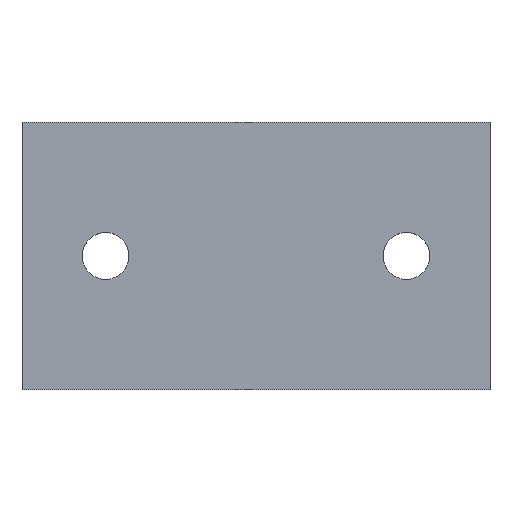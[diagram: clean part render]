
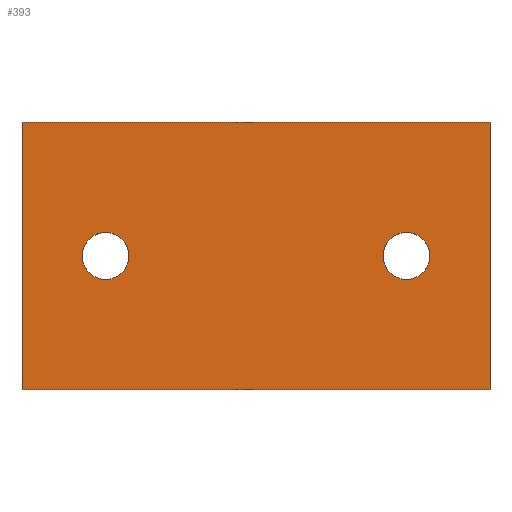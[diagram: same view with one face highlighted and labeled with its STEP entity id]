
A CAD part, top view. The second image highlights one B-rep face of the part: STEP entity #393.
In plain terms, the highlighted planar face has unit normal (0, 0, 1).
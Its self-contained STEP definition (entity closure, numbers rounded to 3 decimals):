
#186=CIRCLE('',#378,7.);
#187=CIRCLE('',#379,7.);
#202=ORIENTED_EDGE('',*,*,#258,.F.);
#203=ORIENTED_EDGE('',*,*,#268,.T.);
#204=ORIENTED_EDGE('',*,*,#265,.T.);
#205=ORIENTED_EDGE('',*,*,#269,.T.);
#206=ORIENTED_EDGE('',*,*,#270,.F.);
#207=ORIENTED_EDGE('',*,*,#271,.F.);
#222=VECTOR('',#304,1.);
#227=VECTOR('',#317,1.);
#230=VECTOR('',#322,1.);
#231=VECTOR('',#323,1.);
#234=LINE('',#343,#222);
#239=LINE('',#358,#227);
#242=LINE('',#362,#230);
#243=LINE('',#363,#231);
#246=VERTEX_POINT('',#340);
#247=VERTEX_POINT('',#342);
#252=VERTEX_POINT('',#356);
#253=VERTEX_POINT('',#357);
#254=VERTEX_POINT('',#364);
#255=VERTEX_POINT('',#366);
#258=EDGE_CURVE('',#246,#247,#234,.T.);
#265=EDGE_CURVE('',#252,#253,#239,.T.);
#268=EDGE_CURVE('',#246,#252,#242,.T.);
#269=EDGE_CURVE('',#253,#247,#243,.T.);
#270=EDGE_CURVE('',#254,#254,#186,.T.);
#271=EDGE_CURVE('',#255,#255,#187,.T.);
#277=EDGE_LOOP('',(#202,#203,#204,#205));
#278=EDGE_LOOP('',(#206));
#279=EDGE_LOOP('',(#207));
#291=FACE_BOUND('',#277,.T.);
#292=FACE_BOUND('',#278,.T.);
#293=FACE_BOUND('',#279,.T.);
#304=DIRECTION('',(140.,0.,0.));
#317=DIRECTION('',(140.,0.,0.));
#320=DIRECTION('',(0.,0.,1.));
#321=DIRECTION('',(0.,-1.,0.));
#322=DIRECTION('',(0.,-80.,0.));
#323=DIRECTION('',(0.,80.,0.));
#324=DIRECTION('',(0.,0.,1.));
#325=DIRECTION('',(0.,-7.,0.));
#326=DIRECTION('',(0.,0.,1.));
#327=DIRECTION('',(0.,-7.,0.));
#340=CARTESIAN_POINT('',(-140.,40.,5.));
#342=CARTESIAN_POINT('',(0.,40.,5.));
#343=CARTESIAN_POINT('',(-140.,40.,5.));
#356=CARTESIAN_POINT('',(-140.,-40.,5.));
#357=CARTESIAN_POINT('',(0.,-40.,5.));
#358=CARTESIAN_POINT('',(-140.,-40.,5.));
#361=CARTESIAN_POINT('',(0.,40.,5.));
#362=CARTESIAN_POINT('',(-140.,40.,5.));
#363=CARTESIAN_POINT('',(0.,-40.,5.));
#364=CARTESIAN_POINT('',(-25.,-7.,5.));
#365=CARTESIAN_POINT('',(-25.,0.,5.));
#366=CARTESIAN_POINT('',(-115.,-7.,5.));
#367=CARTESIAN_POINT('',(-115.,0.,5.));
#377=AXIS2_PLACEMENT_3D('',#361,#320,#321);
#378=AXIS2_PLACEMENT_3D('',#365,#324,#325);
#379=AXIS2_PLACEMENT_3D('',#367,#326,#327);
#387=PLANE('',#377);
#393=ADVANCED_FACE('',(#291,#292,#293),#387,.T.);
